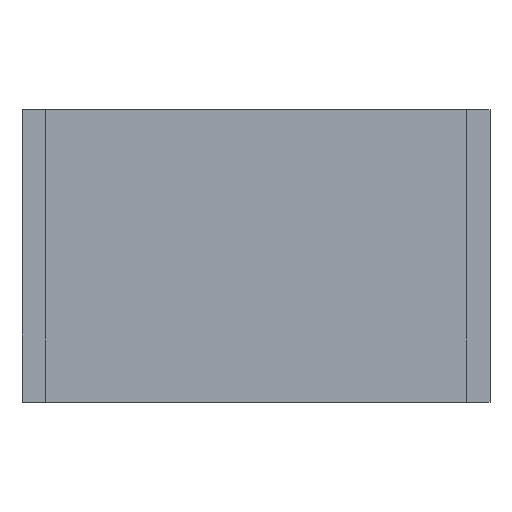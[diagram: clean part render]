
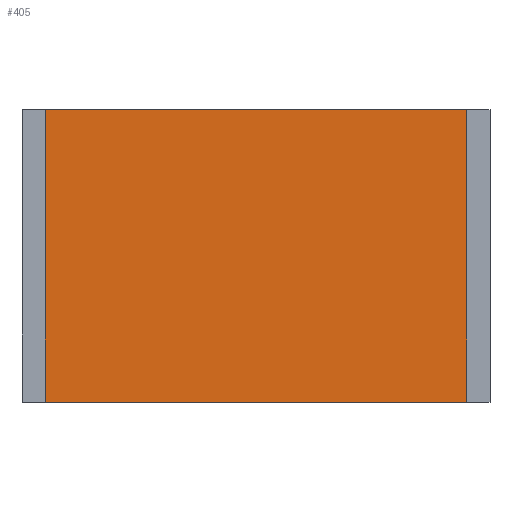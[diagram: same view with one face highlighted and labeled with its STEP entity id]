
A CAD part, top view. The second image highlights one B-rep face of the part: STEP entity #405.
In plain terms, the highlighted planar face has unit normal (0, 0, 1).
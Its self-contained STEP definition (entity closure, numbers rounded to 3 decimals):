
#405=ADVANCED_FACE('',(#830),#832,.T.);
#830=FACE_BOUND('',#831,.T.);
#831=EDGE_LOOP('',(#1138,#1139,#1140,#1141));
#832=PLANE('',#833);
#833=AXIS2_PLACEMENT_3D('',#834,#835,#836);
#834=CARTESIAN_POINT('',(-0.9,-0.625,0.7));
#835=DIRECTION('',(0.,0.,1.));
#836=DIRECTION('',(1.,0.,0.));
#1138=ORIENTED_EDGE('',*,*,#1320,.T.);
#1139=ORIENTED_EDGE('',*,*,#1326,.T.);
#1140=ORIENTED_EDGE('',*,*,#1325,.F.);
#1141=ORIENTED_EDGE('',*,*,#1327,.F.);
#1320=EDGE_CURVE('',#1507,#1508,#1509,.T.);
#1325=EDGE_CURVE('',#1514,#1512,#1516,.T.);
#1326=EDGE_CURVE('',#1508,#1512,#1517,.T.);
#1327=EDGE_CURVE('',#1507,#1514,#1518,.T.);
#1507=VERTEX_POINT('',#1884);
#1508=VERTEX_POINT('',#1885);
#1509=LINE('',#1886,#1887);
#1512=VERTEX_POINT('',#1895);
#1514=VERTEX_POINT('',#1899);
#1516=LINE('',#1903,#1904);
#1517=LINE('',#1906,#1907);
#1518=LINE('',#1909,#1910);
#1884=CARTESIAN_POINT('',(-0.9,-0.625,0.7));
#1885=CARTESIAN_POINT('',(0.9,-0.625,0.7));
#1886=CARTESIAN_POINT('',(-0.9,-0.625,0.7));
#1887=VECTOR('',#1888,1.);
#1888=DIRECTION('',(1.,0.,0.));
#1895=CARTESIAN_POINT('',(0.9,0.625,0.7));
#1899=CARTESIAN_POINT('',(-0.9,0.625,0.7));
#1903=CARTESIAN_POINT('',(-0.9,0.625,0.7));
#1904=VECTOR('',#1905,1.);
#1905=DIRECTION('',(1.,0.,0.));
#1906=CARTESIAN_POINT('',(0.9,-0.625,0.7));
#1907=VECTOR('',#1908,1.);
#1908=DIRECTION('',(0.,1.,0.));
#1909=CARTESIAN_POINT('',(-0.9,-0.625,0.7));
#1910=VECTOR('',#1911,1.);
#1911=DIRECTION('',(0.,1.,0.));
